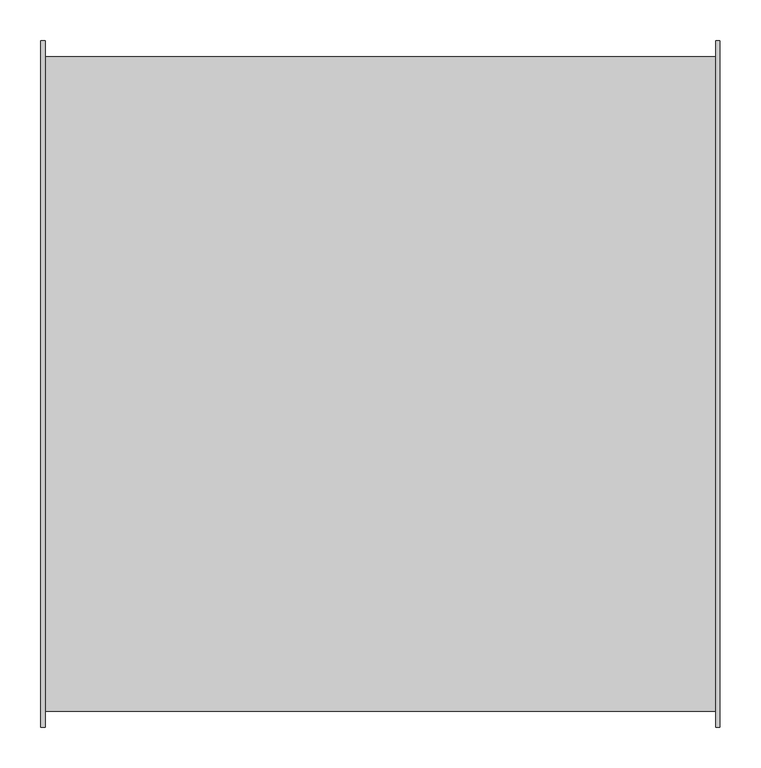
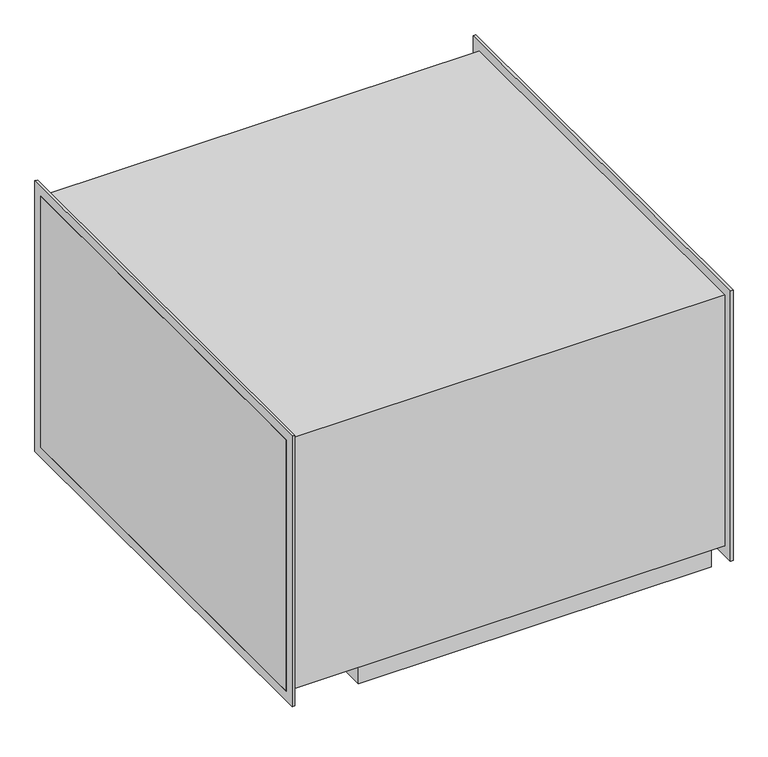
"""IFC4 building model written with IfcOpenShell, lengths in millimetres: unitary equipment geometry, VE-Wentylator-ParaForma-Harmann-DRB-Nawiewny : 080/50/9100T."""

from ifc_helpers import new_model, si_unit, point, frame, frame_2d, origin, place, context, project, spatial, polyline, circle_curve, trimmed, segment, composite_curve, outline, extrude, faceted_brep, source, transform, mapped, element, save
from ifc_brep_helpers import plane_surface, revolved_surface, advanced_brep


def unitary_equipment_0bac79b3(model_context):
    return source(origin(), model_context, "Body", "SolidModel", [
        faceted_brep([(-277.4, -397.0, -285.4), (-277.4, -397.0, -250.0), (-277.4, 397.0, -250.0), (-277.4, 397.0, -285.4), (386.6, -397.0, -285.4), (386.6, 397.0, -285.4), (386.6, 397.0, -250.0), (386.6, -397.0, -250.0), (-272.4, 392.0, -285.4), (-272.4, -392.0, -285.4), (381.6, -392.0, -285.4), (381.6, 392.0, -285.4), (-272.4, 392.0, -250.0), (-272.4, -392.0, -250.0), (381.6, -392.0, -250.0), (381.6, 392.0, -250.0), (-415.0, -400.0, 250.0), (-415.0, -400.0, -250.0), (415.0, -400.0, -250.0), (415.0, -400.0, 250.0), (-415.0, 400.0, 250.0), (415.0, 400.0, 250.0), (-415.0, 400.0, -250.0), (415.0, 400.0, -250.0)], [[[0, 1, 2, 3]], [[4, 5, 6, 7]], [[1, 0, 4, 7]], [[3, 2, 6, 5]], [[0, 3, 5, 4], [8, 9, 10, 11]], [[8, 12, 13, 9]], [[10, 14, 15, 11]], [[9, 13, 14, 10]], [[12, 8, 11, 15]], [[16, 17, 18, 19]], [[20, 16, 19, 21]], [[22, 20, 21, 23]], [[13, 12, 15, 14]], [[18, 17, 22, 23], [2, 1, 7, 6]], [[17, 16, 20, 22]], [[18, 23, 21, 19]]]),
        extrude(outline(polyline([(-419.2, -269.2), (-419.2, 269.2), (419.2, 269.2), (419.2, -269.2), (-419.2, -269.2)]), holes=[polyline([(-400.0, -250.0), (400.0, -250.0), (400.0, 250.0), (-400.0, 250.0), (-400.0, -250.0)])]), frame((410.0, 0.0, 0.0), z_axis=(1.0, 0.0, 0.0), x_axis=(0.0, 1.0, 0.0)), (0.0, 0.0, 1.0), 5.0),
        extrude(outline(polyline([(-419.2, -269.2), (-419.2, 269.2), (419.2, 269.2), (419.2, -269.2), (-419.2, -269.2)]), holes=[polyline([(-400.0, -250.0), (400.0, -250.0), (400.0, 250.0), (-400.0, 250.0), (-400.0, -250.0)])]), frame((-415.0, 0.0, 0.0), z_axis=(1.0, 0.0, 0.0), x_axis=(0.0, 1.0, 0.0)), (0.0, 0.0, 1.0), 5.0),
        extrude(outline(composite_curve([segment(polyline([(77.5, 277.3), (-22.5, 277.3)]), True, "CONTINUOUS"), segment(trimmed(circle_curve(frame_2d((-22.5, 282.3)), 5.0), [point((-22.5, 277.3))], [point((-27.5, 282.3))], False, "CARTESIAN"), True, "CONTINUOUS"), segment(polyline([(-27.5, 282.3), (-27.5, 367.3)]), True, "CONTINUOUS"), segment(trimmed(circle_curve(frame_2d((-22.5, 367.3)), 5.0), [point((-27.5, 367.3))], [point((-22.5, 372.3))], False, "CARTESIAN"), True, "CONTINUOUS"), segment(polyline([(-22.5, 372.3), (77.5, 372.3)]), True, "CONTINUOUS"), segment(trimmed(circle_curve(frame_2d((77.5, 367.3)), 5.0), [point((77.5, 372.3))], [point((82.5, 367.3))], False, "CARTESIAN"), True, "CONTINUOUS"), segment(polyline([(82.5, 367.3), (82.5, 282.3)]), True, "CONTINUOUS"), segment(trimmed(circle_curve(frame_2d((77.5, 282.3)), 5.0), [point((82.5, 282.3))], [point((77.5, 277.3))], False, "CARTESIAN"), True, "CONTINUOUS")], self_intersect=False)), frame((0.0, 0.0, -299.5), z_axis=(0.0, 0.0, 1.0), x_axis=(1.0, 0.0, 0.0)), (0.0, 0.0, 1.0), 49.5),
        advanced_brep(
        [(27.5, -123.45, -265.0), (27.5, 17.05, -265.0), (27.5, -143.2, -250.0), (27.5, 36.8, -250.0)],
        [
            (0, 1, circle_curve(frame((27.5, -53.2, -265.0), z_axis=(0.0, 0.0, -1.0), x_axis=(0.0, -1.0, 0.0)), 70.25)),
            (1, 0, circle_curve(frame((27.5, -53.2, -265.0), z_axis=(0.0, 0.0, -1.0), x_axis=(0.0, 1.0, 0.0)), 70.25)),
            (2, 3, circle_curve(frame((27.5, -53.2, -250.0), z_axis=(0.0, 0.0, 1.0), x_axis=(0.0, 1.0, 0.0)), 90.0)),
            (3, 2, circle_curve(frame((27.5, -53.2, -250.0), z_axis=(0.0, 0.0, 1.0), x_axis=(0.0, -1.0, 0.0)), 90.0)),
            (3, 1),
            (0, 2),
        ],
        [
            plane_surface(frame((27.5, -53.2, -265.0), z_axis=(0.0, 0.0, -1.0), x_axis=(-1.0, 0.0, 0.0))),
            plane_surface(frame((27.5, -53.2, -250.0), z_axis=(0.0, 0.0, 1.0), x_axis=(-1.0, 0.0, 0.0))),
            revolved_surface(polyline([(27.5, -123.45000000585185, -265.0), (27.5, -143.2, -250.0)]), (27.5, -53.2, -318.3544304), (0.0, 0.0, 1.0)),
            revolved_surface(polyline([(27.5, 17.050000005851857, -265.0), (27.5, 36.8, -250.0)]), (27.5, -53.2, -318.3544304), (0.0, 0.0, 1.0)),
        ],
        [
            (0, [[1, 2]]),
            (1, [[3, 4]]),
            (2, [[-4, 5, -1, 6]]),
            (3, [[-3, -6, -2, -5]]),
        ],
    ),
    ])


if __name__ == "__main__":
    model = new_model("IFC4")
    model_context = context("Model", 3, world=origin())
    ifc_project = project(units=[si_unit("LENGTHUNIT", "METRE", prefix="MILLI")], contexts=[model_context])
    site = spatial("IfcSite", under=ifc_project)
    building = spatial("IfcBuilding", under=site)
    placement = place(None, origin())
    unitary_equipment_shape = unitary_equipment_0bac79b3(model_context)
    element("IfcUnitaryEquipment", 1, ObjectType="VE-Wentylator-ParaForma-Harmann-DRB-Nawiewny : 080/50/9100T", at=placement, inside=building, context=model_context, shape_type="MappedRepresentation", body=[
        mapped(unitary_equipment_shape, transform((0.0, 0.0, 0.0), x_axis=(1.0, 0.0, 0.0), y_axis=(0.0, 1.0, 0.0), z_axis=(0.0, 0.0, 1.0))),
    ])
    save(model, "model.ifc")
